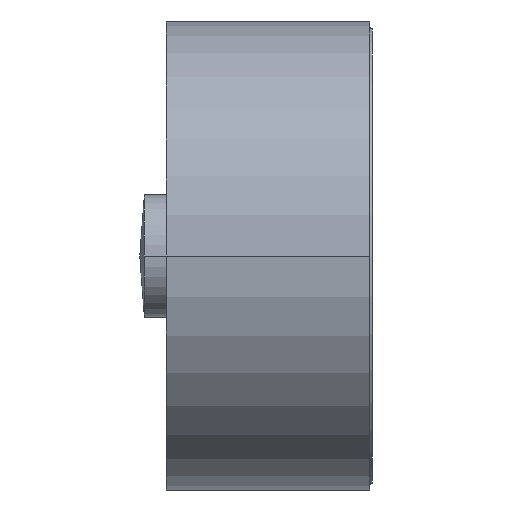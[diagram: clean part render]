
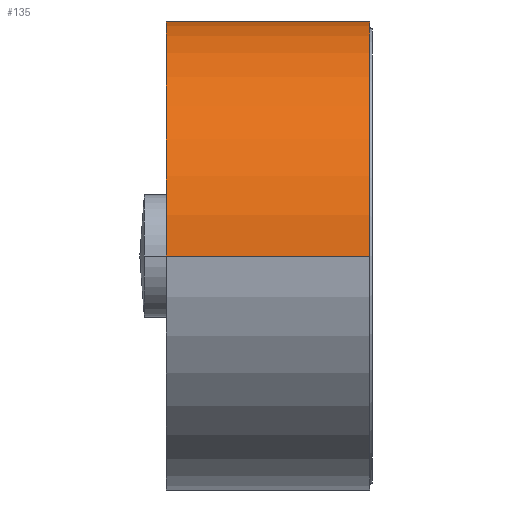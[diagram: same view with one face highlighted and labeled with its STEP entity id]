
A CAD part, left-side view. The second image highlights one B-rep face of the part: STEP entity #135.
In plain terms, the highlighted cylindrical face has radius 38.1 mm (diameter 76.2 mm), a partial arc.
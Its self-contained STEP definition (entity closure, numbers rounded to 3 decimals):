
#135=ADVANCED_FACE('',(#224),#225,.T.);
#224=FACE_OUTER_BOUND('',#390,.T.);
#225=CYLINDRICAL_SURFACE('',#391,38.1);
#390=EDGE_LOOP('',(#613,#614,#615,#616,#617,#618));
#391=AXIS2_PLACEMENT_3D('',#619,#620,#621);
#613=ORIENTED_EDGE('',*,*,#1108,.F.);
#614=ORIENTED_EDGE('',*,*,#1109,.T.);
#615=ORIENTED_EDGE('',*,*,#1110,.F.);
#616=ORIENTED_EDGE('',*,*,#1111,.F.);
#617=ORIENTED_EDGE('',*,*,#1112,.F.);
#618=ORIENTED_EDGE('',*,*,#1113,.T.);
#619=CARTESIAN_POINT('',(0.,16.95,0.0));
#620=DIRECTION('',(0.0,-1.0,0.0));
#621=DIRECTION('',(1.0,0.0,0.0));
#1108=EDGE_CURVE('',#1294,#1295,#1296,.T.);
#1109=EDGE_CURVE('',#1294,#1297,#1298,.T.);
#1110=EDGE_CURVE('',#1299,#1297,#1300,.T.);
#1111=EDGE_CURVE('',#1301,#1299,#1302,.T.);
#1112=EDGE_CURVE('',#1303,#1301,#1304,.T.);
#1113=EDGE_CURVE('',#1303,#1295,#1305,.T.);
#1294=VERTEX_POINT('',#1566);
#1295=VERTEX_POINT('',#1567);
#1296=LINE('',#1568,#1569);
#1297=VERTEX_POINT('',#1570);
#1298=CIRCLE('',#1571,38.1);
#1299=VERTEX_POINT('',#1572);
#1300=LINE('',#1573,#1574);
#1301=VERTEX_POINT('',#1575);
#1302=CIRCLE('',#1576,38.1);
#1303=VERTEX_POINT('',#1577);
#1304=LINE('',#1578,#1579);
#1305=B_SPLINE_CURVE_WITH_KNOTS('',3,(#1580,#1581,#1582,#1583,#1584,#1585,#1586,#1587,#1588,#1589,#1590,#1591,#1592,#1593,#1594,#1595,#1596,#1597,#1598),.UNSPECIFIED.,.F.,.F.,(4,2,2,2,3,2,2,2,4),(1.696,1.838,1.979,2.12,2.262,2.403,2.544,2.686,2.827),.UNSPECIFIED.);
#1566=CARTESIAN_POINT('',(38.1,33.5,0.0));
#1567=CARTESIAN_POINT('',(38.1,9.75,0.0));
#1568=CARTESIAN_POINT('',(38.1,16.95,0.));
#1569=VECTOR('',#1889,1.0);
#1570=CARTESIAN_POINT('',(-38.1,33.5,0.));
#1571=AXIS2_PLACEMENT_3D('',#1890,#1891,#1892);
#1572=CARTESIAN_POINT('',(-38.1,0.4,0.));
#1573=CARTESIAN_POINT('',(-38.1,16.95,0.));
#1574=VECTOR('',#1893,1.0);
#1575=CARTESIAN_POINT('',(38.1,0.4,0.0));
#1576=AXIS2_PLACEMENT_3D('',#1894,#1895,#1896);
#1577=CARTESIAN_POINT('',(38.1,2.25,0.0));
#1578=CARTESIAN_POINT('',(38.1,16.95,0.));
#1579=VECTOR('',#1897,1.0);
#1580=CARTESIAN_POINT('',(38.1,2.25,0.));
#1581=CARTESIAN_POINT('',(38.1,2.25,0.471));
#1582=CARTESIAN_POINT('',(38.09,2.344,0.974));
#1583=CARTESIAN_POINT('',(38.056,2.727,1.897));
#1584=CARTESIAN_POINT('',(38.031,3.016,2.319));
#1585=CARTESIAN_POINT('',(37.984,3.681,2.984));
#1586=CARTESIAN_POINT('',(37.96,4.103,3.273));
#1587=CARTESIAN_POINT('',(37.925,5.026,3.656));
#1588=CARTESIAN_POINT('',(37.915,5.529,3.75));
#1589=CARTESIAN_POINT('',(37.915,6.0,3.75));
#1590=CARTESIAN_POINT('',(37.915,6.471,3.75));
#1591=CARTESIAN_POINT('',(37.925,6.974,3.656));
#1592=CARTESIAN_POINT('',(37.96,7.897,3.273));
#1593=CARTESIAN_POINT('',(37.984,8.319,2.984));
#1594=CARTESIAN_POINT('',(38.031,8.984,2.319));
#1595=CARTESIAN_POINT('',(38.056,9.273,1.897));
#1596=CARTESIAN_POINT('',(38.09,9.656,0.974));
#1597=CARTESIAN_POINT('',(38.1,9.75,0.471));
#1598=CARTESIAN_POINT('',(38.1,9.75,0.));
#1889=DIRECTION('',(0.0,-1.0,0.0));
#1890=CARTESIAN_POINT('',(0.,33.5,0.0));
#1891=DIRECTION('',(0.0,-1.0,0.0));
#1892=DIRECTION('',(1.0,0.0,0.0));
#1893=DIRECTION('',(0.0,1.0,0.0));
#1894=CARTESIAN_POINT('',(0.,0.4,0.0));
#1895=DIRECTION('',(0.0,-1.0,0.0));
#1896=DIRECTION('',(1.0,0.0,0.0));
#1897=DIRECTION('',(0.0,-1.0,0.0));
